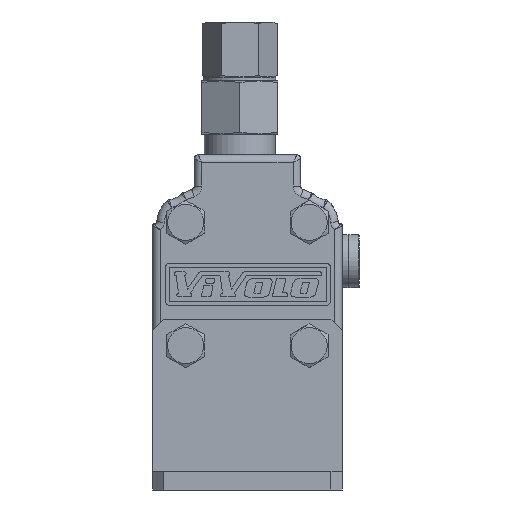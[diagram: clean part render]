
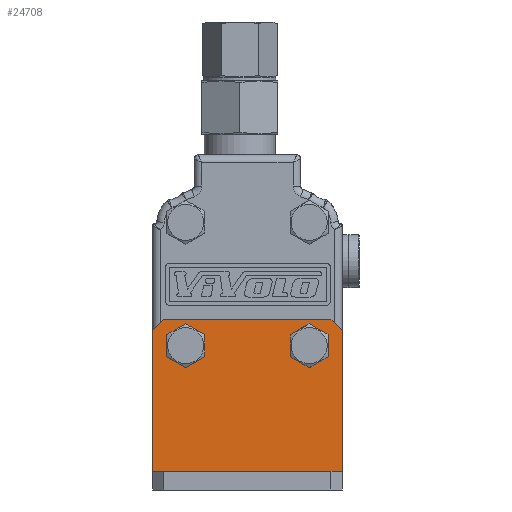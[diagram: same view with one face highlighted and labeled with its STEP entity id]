
A CAD part, front view. The second image highlights one B-rep face of the part: STEP entity #24708.
In plain terms, the highlighted planar face has unit normal (0, -1, 0).
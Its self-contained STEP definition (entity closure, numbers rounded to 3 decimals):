
#930=LINE('',#36543,#2280);
#932=LINE('',#36559,#2282);
#933=LINE('',#36562,#2283);
#934=LINE('',#36564,#2284);
#935=LINE('',#36565,#2285);
#936=LINE('',#36567,#2286);
#2280=VECTOR('',#28801,1000.);
#2282=VECTOR('',#28829,1000.);
#2283=VECTOR('',#28830,1000.);
#2284=VECTOR('',#28831,1000.);
#2285=VECTOR('',#28832,1000.);
#2286=VECTOR('',#28833,1000.);
#4894=ORIENTED_EDGE('',*,*,#9364,.T.);
#4895=ORIENTED_EDGE('',*,*,#9453,.T.);
#4896=ORIENTED_EDGE('',*,*,#9454,.T.);
#4897=ORIENTED_EDGE('',*,*,#9455,.F.);
#4898=ORIENTED_EDGE('',*,*,#9445,.F.);
#4899=ORIENTED_EDGE('',*,*,#9456,.T.);
#4900=ORIENTED_EDGE('',*,*,#9457,.T.);
#4901=ORIENTED_EDGE('',*,*,#9363,.T.);
#9363=EDGE_CURVE('',#11748,#11748,#13176,.T.);
#9364=EDGE_CURVE('',#11749,#11749,#13177,.T.);
#9445=EDGE_CURVE('',#11797,#11798,#930,.T.);
#9453=EDGE_CURVE('',#11799,#11800,#932,.T.);
#9454=EDGE_CURVE('',#11800,#11801,#933,.T.);
#9455=EDGE_CURVE('',#11798,#11801,#934,.T.);
#9456=EDGE_CURVE('',#11797,#11802,#935,.T.);
#9457=EDGE_CURVE('',#11802,#11799,#936,.F.);
#11748=VERTEX_POINT('',#36145);
#11749=VERTEX_POINT('',#36148);
#11797=VERTEX_POINT('',#36542);
#11798=VERTEX_POINT('',#36544);
#11799=VERTEX_POINT('',#36560);
#11800=VERTEX_POINT('',#36561);
#11801=VERTEX_POINT('',#36563);
#11802=VERTEX_POINT('',#36566);
#13176=CIRCLE('',#25903,5.);
#13177=CIRCLE('',#25905,5.);
#14274=EDGE_LOOP('',(#4894));
#14275=EDGE_LOOP('',(#4895,#4896,#4897,#4898,#4899,#4900));
#14276=EDGE_LOOP('',(#4901));
#15498=FACE_BOUND('',#14274,.T.);
#15499=FACE_BOUND('',#14275,.T.);
#15500=FACE_BOUND('',#14276,.T.);
#16590=PLANE('',#25969);
#24708=ADVANCED_FACE('',(#15498,#15499,#15500),#16590,.T.);
#25903=AXIS2_PLACEMENT_3D('',#36144,#28638,#28639);
#25905=AXIS2_PLACEMENT_3D('',#36147,#28642,#28643);
#25969=AXIS2_PLACEMENT_3D('',#36558,#28827,#28828);
#28638=DIRECTION('',(0.,1.,0.));
#28639=DIRECTION('',(0.,0.,1.));
#28642=DIRECTION('',(0.,1.,0.));
#28643=DIRECTION('',(0.,0.,-1.));
#28801=DIRECTION('',(-1.,0.,0.));
#28827=DIRECTION('',(0.,-1.,0.));
#28828=DIRECTION('',(0.,0.,1.));
#28829=DIRECTION('',(-1.,0.,0.));
#28830=DIRECTION('',(-0.707,0.,-0.707));
#28831=DIRECTION('',(0.,0.,1.));
#28832=DIRECTION('',(0.,0.,1.));
#28833=DIRECTION('',(0.707,0.,-0.707));
#36144=CARTESIAN_POINT('',(-16.25,-5.,-16.25));
#36145=CARTESIAN_POINT('',(-16.25,-5.,-11.25));
#36147=CARTESIAN_POINT('',(16.25,-5.,-16.25));
#36148=CARTESIAN_POINT('',(16.25,-5.,-21.25));
#36542=CARTESIAN_POINT('',(25.,-5.,-49.25));
#36543=CARTESIAN_POINT('',(25.,-5.,-49.25));
#36544=CARTESIAN_POINT('',(-25.,-5.,-49.25));
#36558=CARTESIAN_POINT('',(25.,-5.,-49.25));
#36559=CARTESIAN_POINT('',(25.,-5.,-9.25));
#36560=CARTESIAN_POINT('',(22.,-5.,-9.25));
#36561=CARTESIAN_POINT('',(-22.,-5.,-9.25));
#36562=CARTESIAN_POINT('',(-18.5,-5.,-5.75));
#36563=CARTESIAN_POINT('',(-25.,-5.,-12.25));
#36564=CARTESIAN_POINT('',(-25.,-5.,-49.25));
#36565=CARTESIAN_POINT('',(25.,-5.,-49.25));
#36566=CARTESIAN_POINT('',(25.,-5.,-12.25));
#36567=CARTESIAN_POINT('',(43.5,-5.,-30.75));
